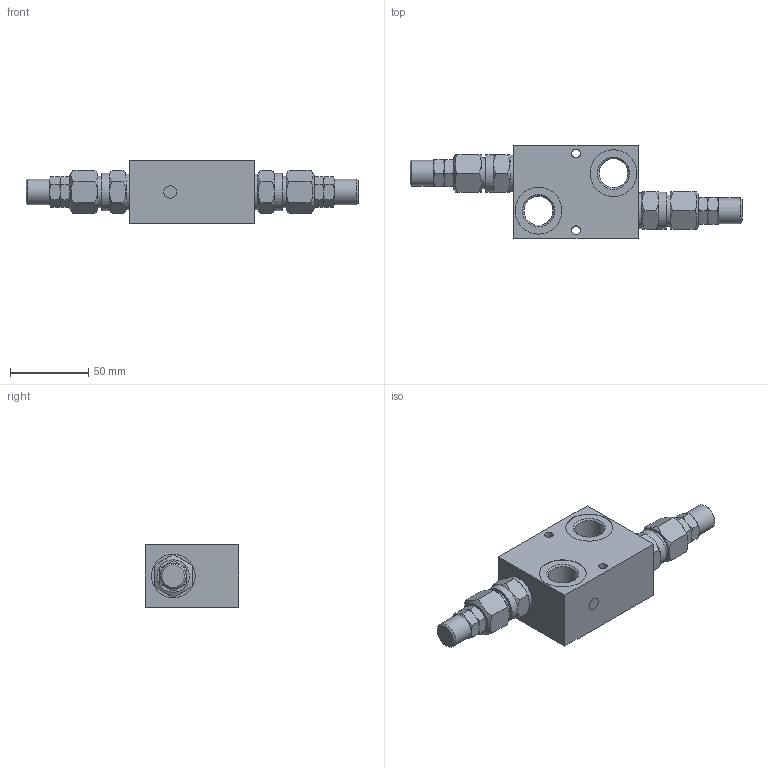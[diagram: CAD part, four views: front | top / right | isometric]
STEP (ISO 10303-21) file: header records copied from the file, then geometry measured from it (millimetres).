
FILE_DESCRIPTION(/* description */ (''),/* implementation_level */ '2;1');
FILE_NAME(/* name */ 'C:\Users\fabio.radici\Desktop\x fede\002-284-0X0_Shrinkwrap.stp',/* time_stamp */ '2021-03-30T17:50:23+02:00',/* author */ ('fabio.radici'),/* organization */ (''),/* preprocessor_version */ 'ST-DEVELOPER v18.1',/* originating_system */ 'Autodesk Inventor 2021',/* authorisation */ '');
FILE_SCHEMA (('AUTOMOTIVE_DESIGN { 1 0 10303 214 3 1 1 }'));
Length unit declared in the file: millimetre
Products named in the file (1): 002-284-0X0_Shrinkwrap
Bounding box: 212.6 x 60 x 40 mm (x, y, z)
Surface area: 39030.3 mm2 (no closed solid volume)
Topology: 0 solids, 12 shells, 165 faces, 421 edges, 269 vertices
Faces by surface type: cone 70, plane 70, cylinder 25
Full cylindrical faces by diameter (mm): 5.5 x2, 8 x3, 10 x1, 16.5 x2, 18.631 x4, 20 x2, 23 x3, 24 x2, 28 x2, 30 x4
Entity records: 5329 total; most frequent: CARTESIAN_POINT 1542, ORIENTED_EDGE 755, DIRECTION 694, EDGE_CURVE 421, AXIS2_PLACEMENT_3D 295, VERTEX_POINT 269, EDGE_LOOP 192, FACE_OUTER_BOUND 165
